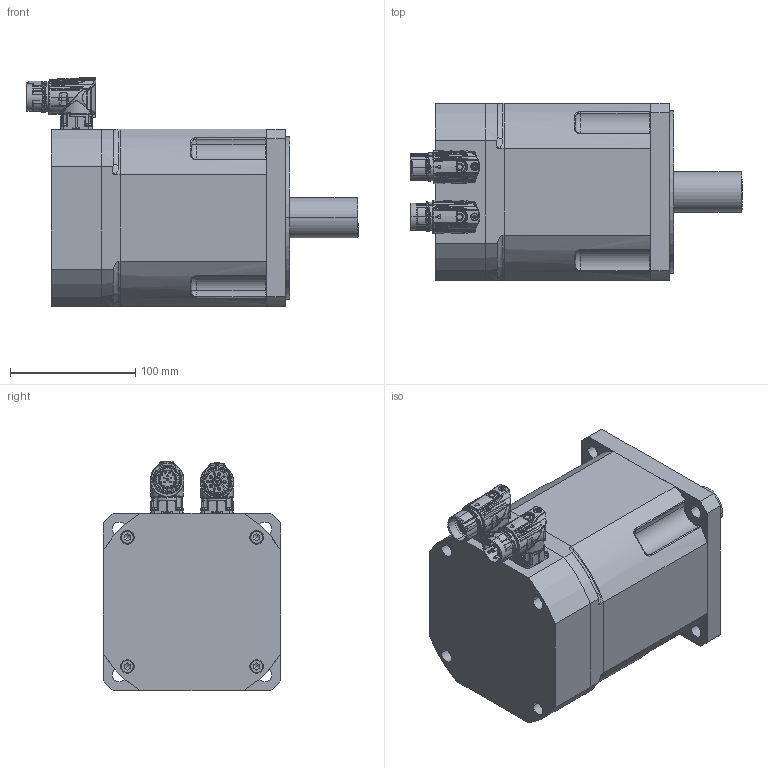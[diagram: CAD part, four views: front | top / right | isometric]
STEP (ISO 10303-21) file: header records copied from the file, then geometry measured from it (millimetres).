
FILE_DESCRIPTION(('CATIA V5 STEP Exchange'),'2;1');
FILE_NAME('C:\Documents and Settings\max\Documenti\sangallimotori\3d step\tg5\motore_DSM5_51.stp','2010-12-12T18:41:53+00:00',('none'),('none'),'CATIA Version 5 Release 10 (IN-8)','CATIA V5 STEP AP203',' none');
FILE_SCHEMA(('CONFIG_CONTROL_DESIGN'));
Assembly tree (27 placements, depth 0):
Bounding box: 265.31 x 142 x 183.43 mm (x, y, z)
Volume: 3458628.6 mm3; surface area: 292053.1 mm2
Topology: 23 solids, 28 shells, 4112 faces, 13934 edges, 9842 vertices
Faces by surface type: cylinder 1486, bspline 1334, plane 590, torus 360, cone 233, sphere 109
Entity records: 255963 total; most frequent: CARTESIAN_POINT 165446, ORIENTED_EDGE 25592, EDGE_CURVE 12853, VERTEX_POINT 9238, DIRECTION 8836, B_SPLINE_CURVE_WITH_KNOTS 7940, AXIS2_PLACEMENT_3D 4425, EDGE_LOOP 3856
